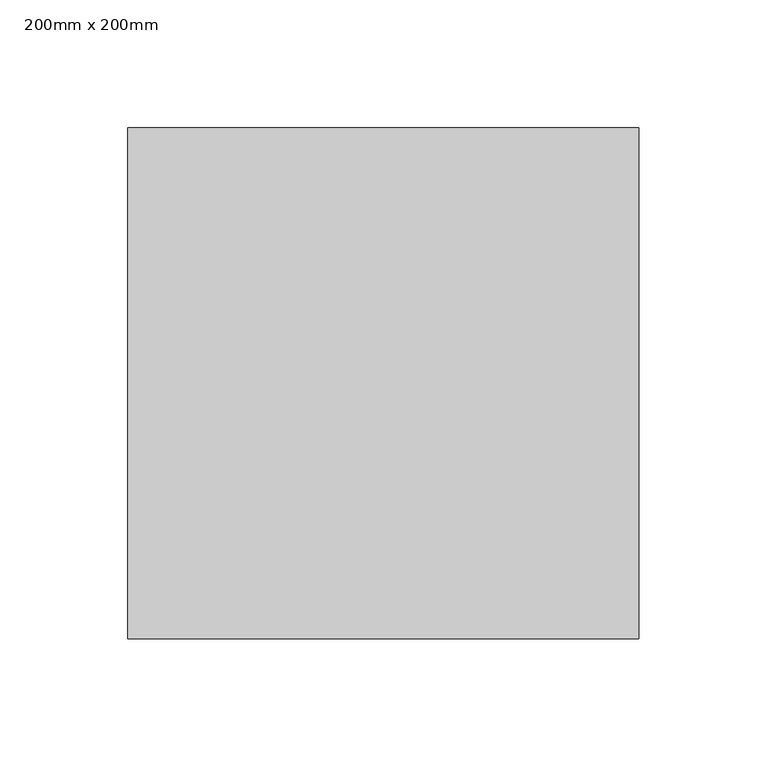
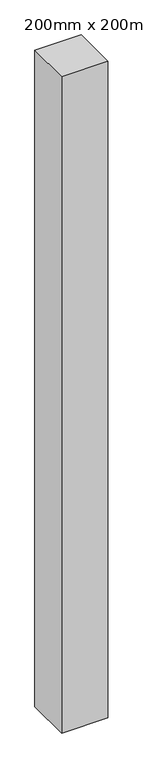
"""IFC4 building model written with IfcOpenShell, lengths in millimetres: column geometry, Poteau béton - Carré : 200mm x 200mm."""

from ifc_helpers import new_model, si_unit, frame, origin, place, context, project, spatial, polyline, outline, extrude, source, transform, mapped, element, save


def column_200mm_x_200mm_c6912df6(model_context):
    return source(origin(), model_context, "Body", "SweptSolid", [
        extrude(outline(polyline([(100.0, 100.0), (100.0, -100.0), (-100.0, -100.0), (-100.0, 100.0), (100.0, 100.0)])), frame((0.0, 0.0, 3950.0), z_axis=(0.0, 0.0, 1.0), x_axis=(1.0, 0.0, 0.0)), (0.0, 0.0, 1.0), 3000.0),
    ])


if __name__ == "__main__":
    model = new_model("IFC4")
    model_context = context("Model", 3, world=origin())
    ifc_project = project(units=[si_unit("LENGTHUNIT", "METRE", prefix="MILLI")], contexts=[model_context])
    site = spatial("IfcSite", under=ifc_project)
    building = spatial("IfcBuilding", under=site)
    placement = place(None, origin())
    column_200mm_x_200mm_shape = column_200mm_x_200mm_c6912df6(model_context)
    element("IfcColumn", 1, ObjectType="Poteau béton - Carré : 200mm x 200mm", at=placement, inside=building, context=model_context, shape_type="MappedRepresentation", body=[
        mapped(column_200mm_x_200mm_shape, transform((0.0, 0.0, 0.0), x_axis=(1.0, 0.0, 0.0), y_axis=(0.0, 1.0, 0.0), z_axis=(0.0, 0.0, 1.0))),
    ])
    save(model, "model.ifc")
